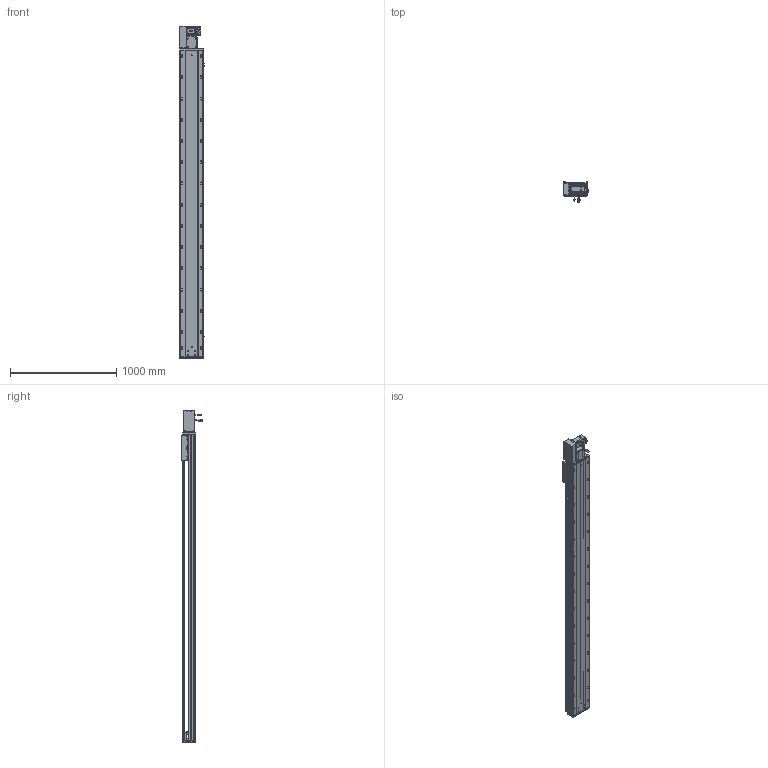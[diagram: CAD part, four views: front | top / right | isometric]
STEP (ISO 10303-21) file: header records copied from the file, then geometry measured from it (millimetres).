
FILE_DESCRIPTION (( 'STEP AP203' ), '1' );
FILE_NAME ('RY220-T-300-LK.SLDASM_2550.step', '2022-07-25T08:16:00', ( '' ), ( '' ), 'SwSTEP 2.0', 'SolidWorks 2016', '' );
FILE_SCHEMA (( 'CONFIG_CONTROL_DESIGN' ));
Length unit declared in the file: millimetre
Products named in the file (14): RY220-T-300-LK.SLDASM_2550; RY220-T菁釱-300_2550; RY220翋肮祭謫裔啣; 滅袉蝶18-15; RY220-俋离672覜茼んえ; RY220圉猾敕々湍臏賑輸; RY220-T-蛌殏萇儂假蚾啣(750W); 怢湛750W_ECMA-CX0807ES; RY220翋肮祭謫釱; RY220-同步轮副支撑座6304×2; RY220-T-湍謫欶(鍼踢); 覜茼ん672; RY220-T-300-奻裔啣_2550; 110A-T-肮祭謫釱傷裔
Assembly tree (18 placements, depth 2):
  RY220-T-300-LK.SLDASM_2550
    RY220-T菁釱-300_2550
    RY220翋肮祭謫釱
    覜茼ん672  x3
    RY220圉猾敕々湍臏賑輸
    RY220-T-300-奻裔啣_2550
    RY220-俋离672覜茼んえ
    滅袉蝶18-15  x3
    RY220翋肮祭謫裔啣  x2
    110A-T-肮祭謫釱傷裔
    怢湛750W_ECMA-CX0807ES
    RY220-T-湍謫欶(鍼踢)
    RY220-T-蛌殏萇儂假蚾啣(750W)
    RY220-同步轮副支撑座6304×2
Bounding box: 239.7 x 198.77 x 3129 mm (x, y, z)
Volume: 22291616.4 mm3; surface area: 6849636.2 mm2
Topology: 19 solids, 19 shells, 2936 faces, 8119 edges, 5096 vertices
Faces by surface type: cylinder 1436, plane 1069, cone 349, bspline 56, sphere 16, torus 10
Entity records: 97891 total; most frequent: CARTESIAN_POINT 27671, ORIENTED_EDGE 14522, DIRECTION 13972, EDGE_CURVE 7261, AXIS2_PLACEMENT_3D 5026, VERTEX_POINT 4720, VECTOR 3920, LINE 3920
